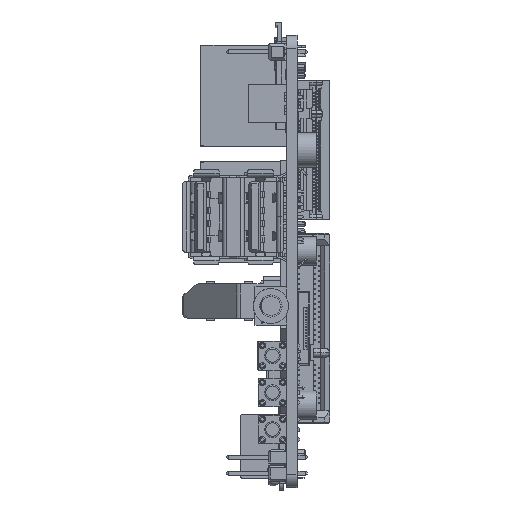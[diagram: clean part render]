
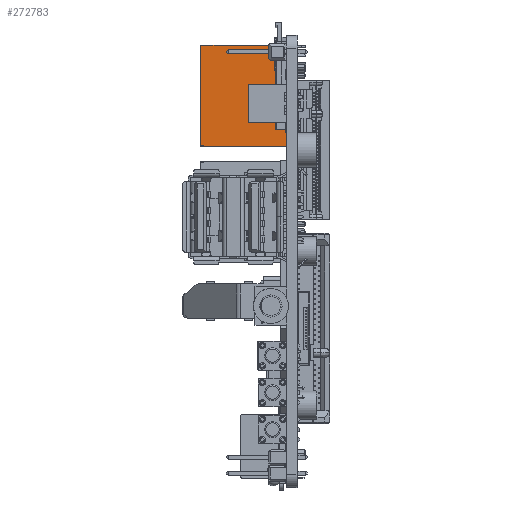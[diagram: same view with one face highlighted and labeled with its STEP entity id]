
A CAD part, left-side view. The second image highlights one B-rep face of the part: STEP entity #272783.
In plain terms, the highlighted planar face has unit normal (-1, 0, 0) as drawn and (0, 0, -1) by its records, which use the part's own axes.
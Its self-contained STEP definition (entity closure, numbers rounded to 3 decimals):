
#1519 = VECTOR ( 'NONE', #301044, 1000. ) ;
#3627 = CARTESIAN_POINT ( 'NONE',  ( 0.1, -0.16, -21.4 ) ) ;
#14459 = VERTEX_POINT ( 'NONE', #120702 ) ;
#21793 = LINE ( 'NONE', #104919, #249880 ) ;
#24606 = CARTESIAN_POINT ( 'NONE',  ( 15.88, -13.5, -21.4 ) ) ;
#27462 = ORIENTED_EDGE ( 'NONE', *, *, #248682, .F. ) ;
#32080 = ORIENTED_EDGE ( 'NONE', *, *, #152434, .T. ) ;
#35511 = CARTESIAN_POINT ( 'NONE',  ( 15.78, -0.16, -21.4 ) ) ;
#36714 = CARTESIAN_POINT ( 'NONE',  ( 0.1, -0.16, -21.4 ) ) ;
#37662 = VERTEX_POINT ( 'NONE', #285107 ) ;
#42473 = CARTESIAN_POINT ( 'NONE',  ( 0., -13.5, -21.4 ) ) ;
#54854 = EDGE_CURVE ( 'NONE', #82646, #37662, #275108, .T. ) ;
#61435 = EDGE_CURVE ( 'NONE', #303188, #14459, #247432, .T. ) ;
#67468 = VECTOR ( 'NONE', #167662, 1000. ) ;
#72713 = EDGE_CURVE ( 'NONE', #189262, #14459, #241105, .T. ) ;
#80676 = CARTESIAN_POINT ( 'NONE',  ( 15.78, -0.16, -21.4 ) ) ;
#82646 = VERTEX_POINT ( 'NONE', #42473 ) ;
#84083 = LINE ( 'NONE', #35511, #184609 ) ;
#85262 = CARTESIAN_POINT ( 'NONE',  ( 15.88, -0.16, -21.4 ) ) ;
#92490 = ORIENTED_EDGE ( 'NONE', *, *, #294231, .T. ) ;
#95698 = VERTEX_POINT ( 'NONE', #85262 ) ;
#104919 = CARTESIAN_POINT ( 'NONE',  ( 15.88, -13.5, -21.4 ) ) ;
#106280 = CARTESIAN_POINT ( 'NONE',  ( 15.88, -13.5, -21.4 ) ) ;
#109346 = CARTESIAN_POINT ( 'NONE',  ( 15.88, 0., -21.4 ) ) ;
#113760 = ORIENTED_EDGE ( 'NONE', *, *, #61435, .T. ) ;
#114001 = CARTESIAN_POINT ( 'NONE',  ( 0., -13.5, -21.4 ) ) ;
#118110 = ORIENTED_EDGE ( 'NONE', *, *, #72713, .F. ) ;
#120702 = CARTESIAN_POINT ( 'NONE',  ( 0.1, 0., -21.4 ) ) ;
#139380 = DIRECTION ( 'NONE',  ( 1., 0., 0. ) ) ;
#144337 = EDGE_LOOP ( 'NONE', ( #247713, #333475, #113760, #118110, #179690, #92490, #27462, #32080 ) ) ;
#152434 = EDGE_CURVE ( 'NONE', #293970, #82646, #182275, .T. ) ;
#153123 = PLANE ( 'NONE',  #288629 ) ;
#155987 = VECTOR ( 'NONE', #209965, 1000. ) ;
#164108 = CARTESIAN_POINT ( 'NONE',  ( 15.78, 0., -21.4 ) ) ;
#167662 = DIRECTION ( 'NONE',  ( 0., 1., 0. ) ) ;
#173884 = VECTOR ( 'NONE', #241207, 1000. ) ;
#179690 = ORIENTED_EDGE ( 'NONE', *, *, #295274, .F. ) ;
#182275 = LINE ( 'NONE', #24606, #186452 ) ;
#182544 = DIRECTION ( 'NONE',  ( -1., 0., 0. ) ) ;
#182881 = DIRECTION ( 'NONE',  ( 0., 1., 0. ) ) ;
#184609 = VECTOR ( 'NONE', #189674, 1000. ) ;
#186452 = VECTOR ( 'NONE', #206600, 1000. ) ;
#187541 = CARTESIAN_POINT ( 'NONE',  ( 15.78, -0.16, -21.4 ) ) ;
#189262 = VERTEX_POINT ( 'NONE', #164108 ) ;
#189674 = DIRECTION ( 'NONE',  ( 0., 1., 0. ) ) ;
#197780 = VERTEX_POINT ( 'NONE', #187541 ) ;
#206600 = DIRECTION ( 'NONE',  ( -1., 0., 0. ) ) ;
#209965 = DIRECTION ( 'NONE',  ( -1., 0., 0. ) ) ;
#212018 = DIRECTION ( 'NONE',  ( 0., 0., -1. ) ) ;
#212314 = LINE ( 'NONE', #80676, #251232 ) ;
#236609 = CARTESIAN_POINT ( 'NONE',  ( 15.88, -13.5, -21.4 ) ) ;
#241105 = LINE ( 'NONE', #109346, #155987 ) ;
#241207 = DIRECTION ( 'NONE',  ( -1., 0., 0. ) ) ;
#246084 = EDGE_CURVE ( 'NONE', #303188, #37662, #296503, .T. ) ;
#247432 = LINE ( 'NONE', #323498, #67468 ) ;
#247713 = ORIENTED_EDGE ( 'NONE', *, *, #54854, .T. ) ;
#248682 = EDGE_CURVE ( 'NONE', #293970, #95698, #21793, .T. ) ;
#249880 = VECTOR ( 'NONE', #182881, 1000. ) ;
#251232 = VECTOR ( 'NONE', #139380, 1000. ) ;
#272783 = ADVANCED_FACE ( 'NONE', ( #278008 ), #153123, .T. ) ;
#275108 = LINE ( 'NONE', #114001, #1519 ) ;
#278008 = FACE_OUTER_BOUND ( 'NONE', #144337, .T. ) ;
#285107 = CARTESIAN_POINT ( 'NONE',  ( 0., -0.16, -21.4 ) ) ;
#288629 = AXIS2_PLACEMENT_3D ( 'NONE', #106280, #212018, #182544 ) ;
#293970 = VERTEX_POINT ( 'NONE', #236609 ) ;
#294231 = EDGE_CURVE ( 'NONE', #197780, #95698, #212314, .T. ) ;
#295274 = EDGE_CURVE ( 'NONE', #197780, #189262, #84083, .T. ) ;
#296503 = LINE ( 'NONE', #36714, #173884 ) ;
#301044 = DIRECTION ( 'NONE',  ( 0., 1., 0. ) ) ;
#303188 = VERTEX_POINT ( 'NONE', #3627 ) ;
#323498 = CARTESIAN_POINT ( 'NONE',  ( 0.1, -0.16, -21.4 ) ) ;
#333475 = ORIENTED_EDGE ( 'NONE', *, *, #246084, .F. ) ;
